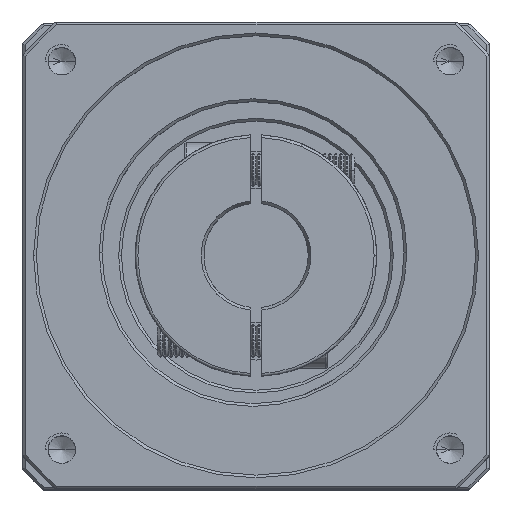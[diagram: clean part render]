
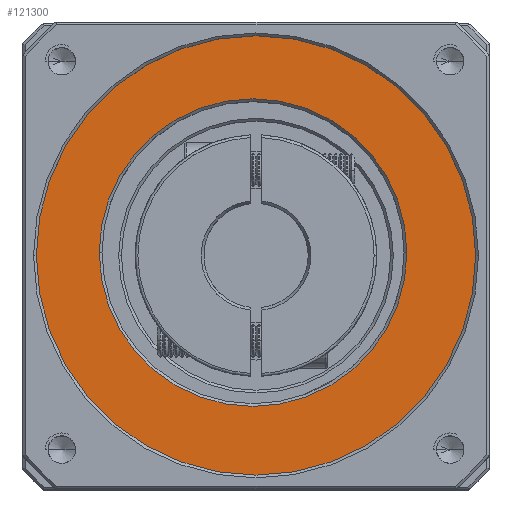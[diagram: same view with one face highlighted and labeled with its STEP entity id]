
A CAD part, top view. The second image highlights one B-rep face of the part: STEP entity #121300.
In plain terms, the highlighted planar face has unit normal (0, 0, 1).
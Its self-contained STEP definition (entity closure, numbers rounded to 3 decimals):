
#266 = AXIS2_PLACEMENT_3D ( 'NONE', #58430, #48422, #8508 ) ;
#497 = AXIS2_PLACEMENT_3D ( 'NONE', #51685, #121169, #104935 ) ;
#3040 = CARTESIAN_POINT ( 'NONE',  ( -2.508, 52.391, -13.128 ) ) ;
#3050 = DIRECTION ( 'NONE',  ( 0., 0., -1. ) ) ;
#8508 = DIRECTION ( 'NONE',  ( 1., 0., 0. ) ) ;
#9708 = CIRCLE ( 'NONE', #123370, 28. ) ;
#11011 = CARTESIAN_POINT ( 'NONE',  ( -30.508, 52.391, -13.128 ) ) ;
#11985 = EDGE_CURVE ( 'NONE', #85096, #47334, #57574, .T. ) ;
#17767 = EDGE_LOOP ( 'NONE', ( #50897, #60832 ) ) ;
#21840 = ORIENTED_EDGE ( 'NONE', *, *, #11985, .T. ) ;
#29235 = VERTEX_POINT ( 'NONE', #41857 ) ;
#33910 = DIRECTION ( 'NONE',  ( 0., 0., 1. ) ) ;
#34415 = EDGE_CURVE ( 'NONE', #29235, #125221, #39541, .T. ) ;
#35923 = EDGE_CURVE ( 'NONE', #47334, #85096, #67457, .T. ) ;
#39541 = CIRCLE ( 'NONE', #68265, 28. ) ;
#40252 = FACE_OUTER_BOUND ( 'NONE', #72808, .T. ) ;
#40841 = PLANE ( 'NONE',  #119211 ) ;
#41857 = CARTESIAN_POINT ( 'NONE',  ( -58.508, 52.391, -13.128 ) ) ;
#47334 = VERTEX_POINT ( 'NONE', #65534 ) ;
#48422 = DIRECTION ( 'NONE',  ( 0., 0., 1. ) ) ;
#48591 = ORIENTED_EDGE ( 'NONE', *, *, #35923, .T. ) ;
#50897 = ORIENTED_EDGE ( 'NONE', *, *, #86736, .T. ) ;
#51685 = CARTESIAN_POINT ( 'NONE',  ( -29.966, 51.857, -13.128 ) ) ;
#57574 = CIRCLE ( 'NONE', #266, 40. ) ;
#58430 = CARTESIAN_POINT ( 'NONE',  ( -29.966, 51.857, -13.128 ) ) ;
#59659 = DIRECTION ( 'NONE',  ( 1., 0., 0. ) ) ;
#60832 = ORIENTED_EDGE ( 'NONE', *, *, #34415, .T. ) ;
#61699 = CARTESIAN_POINT ( 'NONE',  ( -69.966, 51.857, -13.128 ) ) ;
#62908 = DIRECTION ( 'NONE',  ( 1., 0., 0. ) ) ;
#63335 = DIRECTION ( 'NONE',  ( 1., 0., 0. ) ) ;
#65534 = CARTESIAN_POINT ( 'NONE',  ( 10.034, 51.857, -13.128 ) ) ;
#67457 = CIRCLE ( 'NONE', #497, 40. ) ;
#68265 = AXIS2_PLACEMENT_3D ( 'NONE', #112818, #3050, #62908 ) ;
#72808 = EDGE_LOOP ( 'NONE', ( #48591, #21840 ) ) ;
#80050 = DIRECTION ( 'NONE',  ( 0., 0., -1. ) ) ;
#83749 = FACE_BOUND ( 'NONE', #17767, .T. ) ;
#85096 = VERTEX_POINT ( 'NONE', #61699 ) ;
#86736 = EDGE_CURVE ( 'NONE', #125221, #29235, #9708, .T. ) ;
#103369 = CARTESIAN_POINT ( 'NONE',  ( -29.966, 51.857, -13.128 ) ) ;
#104935 = DIRECTION ( 'NONE',  ( 1., 0., 0. ) ) ;
#112818 = CARTESIAN_POINT ( 'NONE',  ( -30.508, 52.391, -13.128 ) ) ;
#119211 = AXIS2_PLACEMENT_3D ( 'NONE', #103369, #33910, #63335 ) ;
#121169 = DIRECTION ( 'NONE',  ( 0., 0., 1. ) ) ;
#121300 = ADVANCED_FACE ( 'NONE', ( #40252, #83749 ), #40841, .T. ) ;
#123370 = AXIS2_PLACEMENT_3D ( 'NONE', #11011, #80050, #59659 ) ;
#125221 = VERTEX_POINT ( 'NONE', #3040 ) ;
